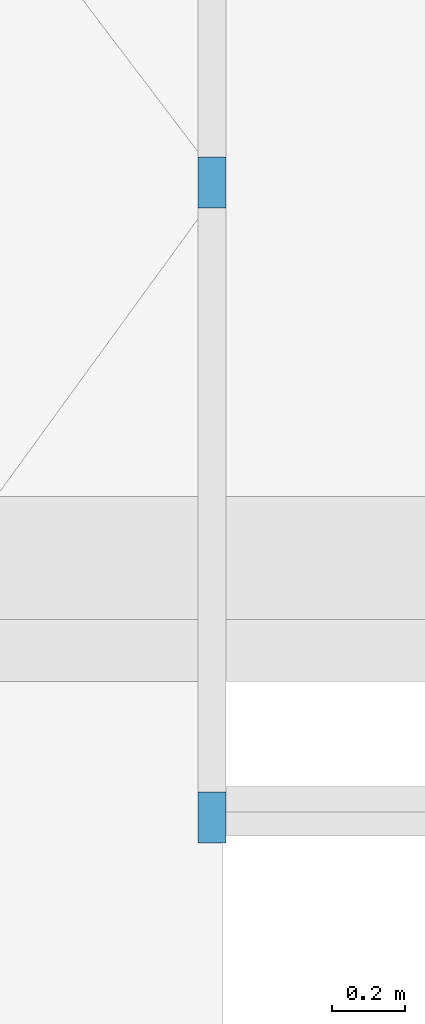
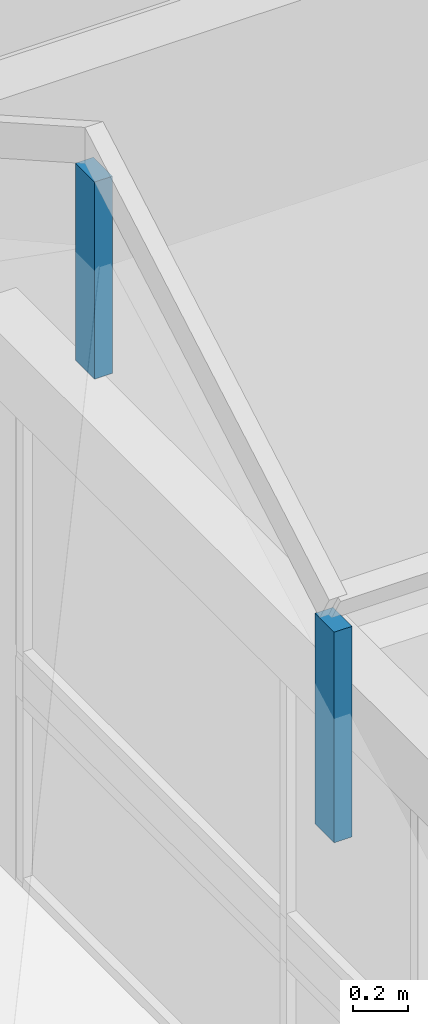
# One storey, part 32 of 153: 2 members, 1 element without a shape of its own.
"""IFC4 building model written with IfcOpenShell, lengths in metres."""

from ifc_helpers import new_model, entity, si_unit, converted_unit, derived_unit, direction, frame, origin, place, context, subcontext, project, spatial, indexed_curve, outline, extrude, source, transform, mapped, material, type_object, type_shapes, element, aggregate, save


model = new_model("IFC4")

# Units and contexts
model_context = context("Model", 3, precision=1e-05, world=origin(), true_north=direction((6.123031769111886e-17, 1.0)))
body_context = subcontext(model_context, "Body", "Model", "MODEL_VIEW")
ifc_project = project(units=[si_unit("LENGTHUNIT", "METRE"), si_unit("AREAUNIT", "SQUARE_METRE"), si_unit("VOLUMEUNIT", "CUBIC_METRE"), converted_unit("PLANEANGLEUNIT", "DEGREE", entity("IfcRatioMeasure", 0.017453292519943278), si_unit("PLANEANGLEUNIT", "RADIAN"), dimensions=[0, 0, 0, 0, 0, 0, 0]), si_unit("MASSUNIT", "GRAM", prefix="KILO"), derived_unit("MASSDENSITYUNIT", [(si_unit("MASSUNIT", "GRAM", prefix="KILO"), 1), (si_unit("LENGTHUNIT", "METRE"), -3)]), derived_unit("MOMENTOFINERTIAUNIT", [(si_unit("LENGTHUNIT", "METRE"), 4)]), si_unit("TIMEUNIT", "SECOND"), si_unit("FREQUENCYUNIT", "HERTZ"), si_unit("THERMODYNAMICTEMPERATUREUNIT", "DEGREE_CELSIUS"), derived_unit("THERMALTRANSMITTANCEUNIT", [(si_unit("MASSUNIT", "GRAM", prefix="KILO"), 1), (si_unit("THERMODYNAMICTEMPERATUREUNIT", "KELVIN"), -1), (si_unit("TIMEUNIT", "SECOND"), -3)]), derived_unit("VOLUMETRICFLOWRATEUNIT", [(si_unit("LENGTHUNIT", "METRE"), 3), (si_unit("TIMEUNIT", "SECOND"), -1)]), derived_unit("MASSFLOWRATEUNIT", [(si_unit("MASSUNIT", "GRAM", prefix="KILO"), 1), (si_unit("TIMEUNIT", "SECOND"), -1)]), derived_unit("ROTATIONALFREQUENCYUNIT", [(si_unit("TIMEUNIT", "SECOND"), -1)]), si_unit("ELECTRICCURRENTUNIT", "AMPERE"), si_unit("ELECTRICVOLTAGEUNIT", "VOLT"), si_unit("POWERUNIT", "WATT"), si_unit("FORCEUNIT", "NEWTON", prefix="KILO"), si_unit("ILLUMINANCEUNIT", "LUX"), si_unit("LUMINOUSFLUXUNIT", "LUMEN"), si_unit("LUMINOUSINTENSITYUNIT", "CANDELA"), derived_unit("USERDEFINED", [(si_unit("MASSUNIT", "GRAM", prefix="KILO"), -1), (si_unit("LENGTHUNIT", "METRE"), -2), (si_unit("TIMEUNIT", "SECOND"), 3), (si_unit("LUMINOUSFLUXUNIT", "LUMEN"), 1)]), derived_unit("SOUNDPOWERUNIT", [(si_unit("MASSUNIT", "GRAM", prefix="KILO"), 1), (si_unit("LENGTHUNIT", "METRE"), 2), (si_unit("TIMEUNIT", "SECOND"), -3)]), derived_unit("SOUNDPRESSUREUNIT", [(si_unit("MASSUNIT", "GRAM", prefix="KILO"), 1), (si_unit("LENGTHUNIT", "METRE"), -1), (si_unit("TIMEUNIT", "SECOND"), -2)]), derived_unit("LINEARVELOCITYUNIT", [(si_unit("LENGTHUNIT", "METRE"), 1), (si_unit("TIMEUNIT", "SECOND"), -1)]), si_unit("PRESSUREUNIT", "PASCAL"), derived_unit("USERDEFINED", [(si_unit("LENGTHUNIT", "METRE"), -2), (si_unit("MASSUNIT", "GRAM", prefix="KILO"), 1), (si_unit("TIMEUNIT", "SECOND"), -2)]), derived_unit("LINEARFORCEUNIT", [(si_unit("MASSUNIT", "GRAM", prefix="KILO"), 1), (si_unit("LENGTHUNIT", "METRE"), 1), (si_unit("TIMEUNIT", "SECOND"), -2), (si_unit("LENGTHUNIT", "METRE"), -1)]), derived_unit("PLANARFORCEUNIT", [(si_unit("MASSUNIT", "GRAM", prefix="KILO"), 1), (si_unit("LENGTHUNIT", "METRE"), 1), (si_unit("TIMEUNIT", "SECOND"), -2), (si_unit("LENGTHUNIT", "METRE"), -2)])], contexts=[model_context])

# Site, building, storey
site_placement = place(None, origin())
site = spatial("IfcSite", under=ifc_project, at=site_placement, Name="Superficie", CompositionType="ELEMENT")
building_placement = place(site_placement, origin())
building = spatial("IfcBuilding", under=site, at=building_placement, CompositionType="ELEMENT")
storey_placement = place(building_placement, frame((0.0, 0.0, 3.5999999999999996)))
storey = spatial("IfcBuildingStorey", under=building, at=storey_placement, Name="Nivel 1", CompositionType="ELEMENT", Elevation=3.5999999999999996)

# Assembly, members
assembly_placement = place(storey_placement, origin())
assembly = element("IfcElementAssembly", 1, at=assembly_placement, inside=storey, Name="Cercha superior:Cercha superior", ObjectType="Cercha superior:Cercha superior", AssemblyPlace="NOTDEFINED", PredefinedType="TRUSS")
ifc_material = material(Name="Madera - Madera de construcción", Category="Madera")
member_type_1 = type_object("IfcMemberType", Name="Glulam-Pino del sur:76X140", PredefinedType="BRACE", material=ifc_material)
shared_shape_1 = source(origin(), body_context, "Body", "SweptSolid", [
    extrude(outline(indexed_curve([(-0.06999999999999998, -0.03800000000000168), (0.06999999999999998, -0.03800000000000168), (0.06999999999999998, 0.03800000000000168), (-0.06999999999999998, 0.03800000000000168), (-0.06999999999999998, -0.03800000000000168)], self_intersect=False)), frame((-0.5000000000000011, 0.0, 0.0), z_axis=(1.0, 0.0, 0.0), x_axis=(0.0, 0.0, -1.0)), (0.0, 0.0, 1.0), 0.939000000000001),
])
type_shapes(member_type_1, [shared_shape_1])
member_1_placement = place(assembly_placement, frame((-16.923200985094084, -3.7086724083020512, 7.52497651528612), z_axis=(0.0, -1.0, 0.0), x_axis=(0.0, 0.0, 1.0)))
member_1 = element("IfcMember", 2, at=member_1_placement, type_object=member_type_1, material=ifc_material, Name="Glulam-Pino del sur:76X140", ObjectType="Glulam-Pino del sur:76X140", PredefinedType="BRACE", context=body_context, shape_type="MappedRepresentation", body=[
    mapped(shared_shape_1, transform((0.0, 0.0, 0.0), scale=1.0)),
])
member_type_2 = type_object("IfcMemberType", Name="Glulam-Pino del sur:76X140", PredefinedType="BRACE", material=ifc_material)
shared_shape_2 = source(origin(), body_context, "Body", "SweptSolid", [
    extrude(outline(indexed_curve([(-0.06999999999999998, -0.03800000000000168), (0.06999999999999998, -0.03800000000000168), (0.06999999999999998, 0.03800000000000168), (-0.06999999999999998, 0.03800000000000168), (-0.06999999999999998, -0.03800000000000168)], self_intersect=False)), frame((-0.5000000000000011, 0.0, 0.0), z_axis=(1.0, 0.0, 0.0), x_axis=(0.0, 0.0, -1.0)), (0.0, 0.0, 1.0), 0.8790000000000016),
])
type_shapes(member_type_2, [shared_shape_2])
member_2_placement = place(assembly_placement, frame((-16.92320098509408, -1.9586836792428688, 8.531257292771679), z_axis=(0.0, -1.0, 0.0), x_axis=(0.0, 0.0, 1.0)))
member_2 = element("IfcMember", 3, at=member_2_placement, type_object=member_type_2, material=ifc_material, Name="Glulam-Pino del sur:76X140", ObjectType="Glulam-Pino del sur:76X140", PredefinedType="BRACE", context=body_context, shape_type="MappedRepresentation", body=[
    mapped(shared_shape_2, transform((0.0, 0.0, 0.0), scale=1.0)),
])
aggregate(assembly, [member_1, member_2])

save(model, "model.ifc")
